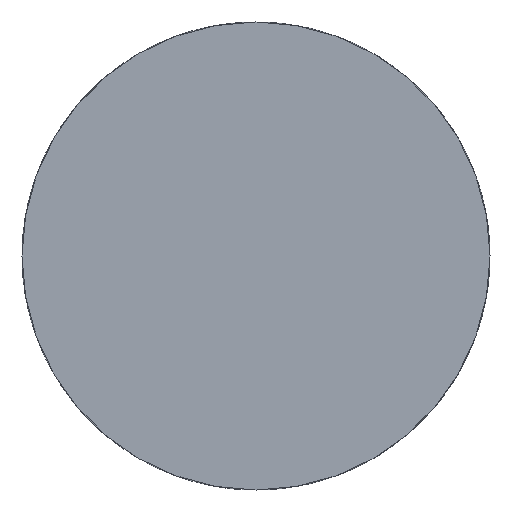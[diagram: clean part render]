
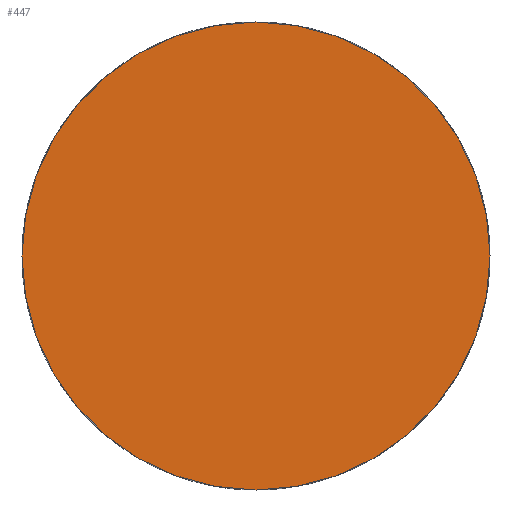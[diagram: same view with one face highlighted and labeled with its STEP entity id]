
A CAD part, left-side view. The second image highlights one B-rep face of the part: STEP entity #447.
In plain terms, the highlighted planar face has unit normal (-1, 0, 0).
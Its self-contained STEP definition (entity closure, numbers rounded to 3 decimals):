
#447 = ADVANCED_FACE( '', ( #1076 ), #1077, .F. );
#1076 = FACE_OUTER_BOUND( '', #1885, .T. );
#1077 = PLANE( '', #1886 );
#1885 = EDGE_LOOP( '', ( #3370 ) );
#1886 = AXIS2_PLACEMENT_3D( '', #3371, #3372, #3373 );
#3370 = ORIENTED_EDGE( '', *, *, #5685, .F. );
#3371 = CARTESIAN_POINT( '', ( 0., 0., 0. ) );
#3372 = DIRECTION( '', ( 1., 0., 0. ) );
#3373 = DIRECTION( '', ( 0., 0., -1. ) );
#5685 = EDGE_CURVE( '', #7162, #7162, #7163, .T. );
#7162 = VERTEX_POINT( '', #9013 );
#7163 = CIRCLE( '', #9014, 15.375 );
#9013 = CARTESIAN_POINT( '', ( 0., 0., -15.375 ) );
#9014 = AXIS2_PLACEMENT_3D( '', #10780, #10781, #10782 );
#10780 = CARTESIAN_POINT( '', ( 0., 0., 0. ) );
#10781 = DIRECTION( '', ( 1., 0., 0. ) );
#10782 = DIRECTION( '', ( 0., 0., -1. ) );
